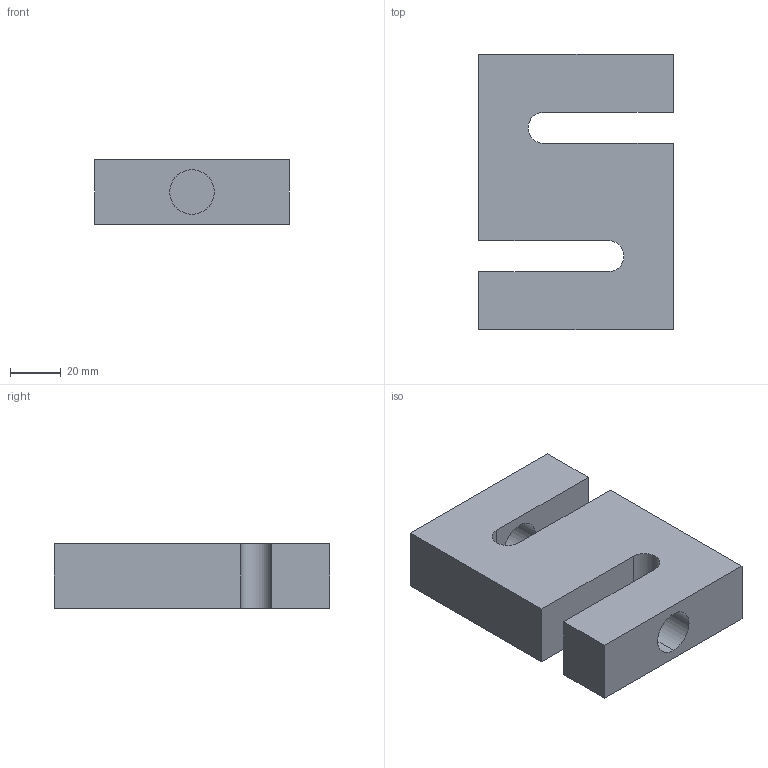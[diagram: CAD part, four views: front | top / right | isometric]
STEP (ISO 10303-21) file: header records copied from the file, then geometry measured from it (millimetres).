
FILE_DESCRIPTION (( 'STEP AP203' ), '1' );
FILE_NAME ('ras1-5K lb, 10K lb.STEP', '2018-03-30T04:48:25', ( '' ), ( '' ), 'SwSTEP 2.0', 'SolidWorks 2016', '' );
FILE_SCHEMA (( 'CONFIG_CONTROL_DESIGN' ));
Length unit declared in the file: inch
Products named in the file (1): ras1-5K lb, 10K lb
Bounding box: 76.2 x 107.95 x 25.4 mm (x, y, z)
Volume: 163608.8 mm3; surface area: 30141.3 mm2
Topology: 1 solids, 1 shells, 19 faces, 51 edges, 34 vertices
Faces by surface type: plane 12, cylinder 7
Entity records: 686 total; most frequent: DIRECTION 105, CARTESIAN_POINT 105, ORIENTED_EDGE 102, EDGE_CURVE 51, VECTOR 37, LINE 37, AXIS2_PLACEMENT_3D 34, VERTEX_POINT 34
